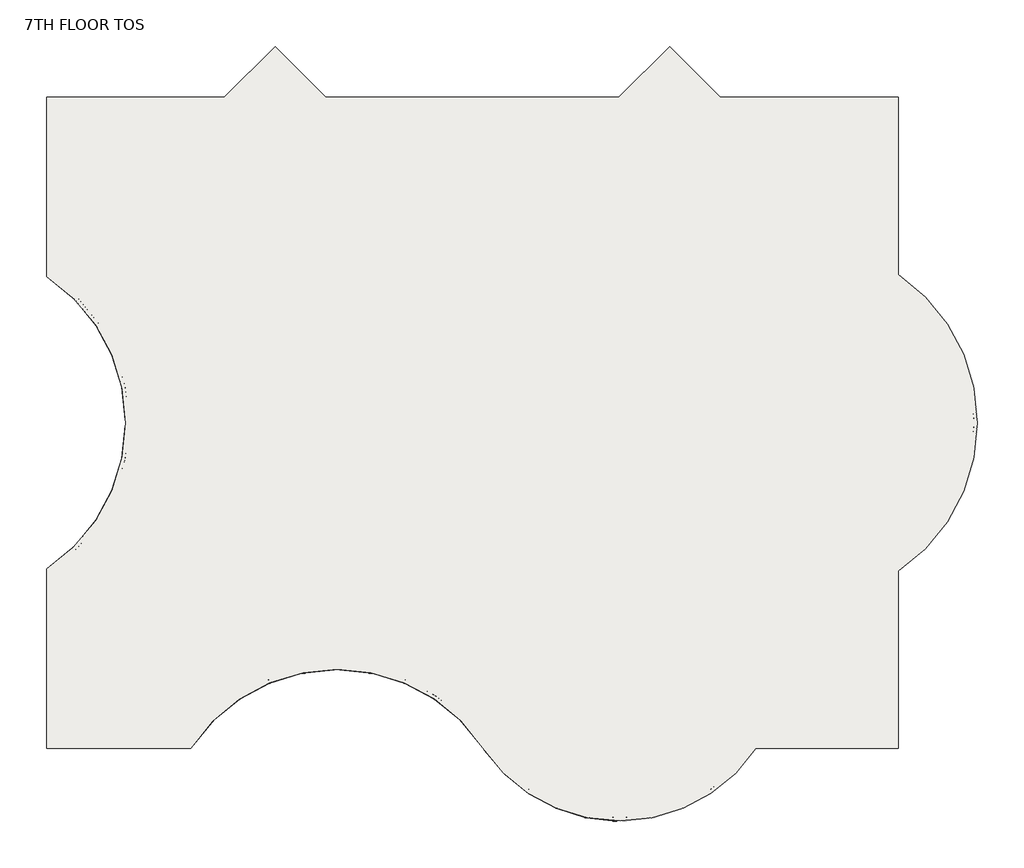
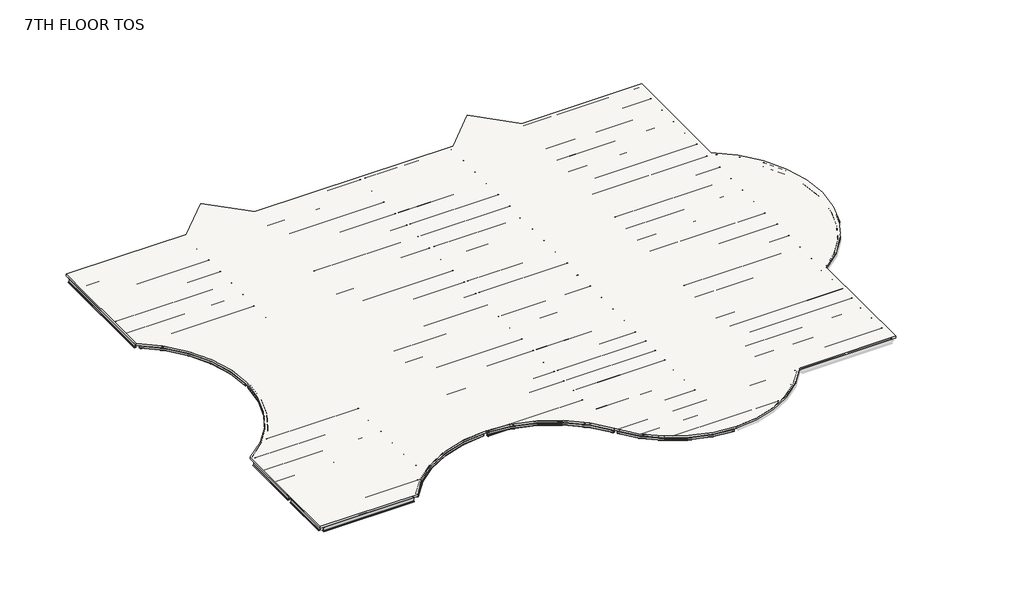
# One storey, part 1 of 2: 86 beams, 1 slab.
"""IFC4 building model written with IfcOpenShell, lengths in millimetres."""

from ifc_helpers import new_model, si_unit, frame, origin, place, context, project, spatial, polyline, circle_curve, transform, mapped, element, save
from ifc_brep_helpers import plane_surface, cylinder_surface, revolved_surface, advanced_brep
from components import m_hss_square_hss203_2x203_2x9_5_914ff4eb, m_hss_square_hss203_2x203_2x9_5_0e3d8e6e, m_hss_square_hss203_2x203_2x9_5_16dc1c03, m_hss_square_hss203_2x203_2x9_5_18346204, m_hss_square_hss203_2x203_2x9_5_d5f1e8c4, ub_universal_beams_ub254x102x28_4e7f3726, ub_universal_beams_ub305x165x40_c4d0385b, ub_universal_beams_ub305x165x40_d3abc31d, ub_universal_beams_ub305x165x40_0c73730f, ub_universal_beams_ub305x165x40_2a963f0c, ub_universal_beams_ub305x165x40_0a5f2f96, ub_universal_beams_ub305x165x40_d1f7c369, ub_universal_beams_ub305x165x40_83d7b7d5, ub_universal_beams_ub305x165x40_729a4ea5, ub_universal_beams_ub305x165x40_71dfa851, ub_universal_beams_ub305x165x40_619b5398, ub_universal_beams_ub305x165x40_c3492db1, ub_universal_beams_ub305x165x40_8f1c350d, ub_universal_beams_ub305x165x40_3afb5f90, ub_universal_beams_ub305x165x40_767d1929, ub_universal_beams_ub305x165x40_5941ca45, ub_universal_beams_ub356x171x51_ef72dcdd, ub_universal_beams_ub356x171x51_7f80702c, ub_universal_beams_ub356x171x51_dfc36663, ub_universal_beams_ub356x171x51_405a853e, ub_universal_beams_ub356x171x51_e47b7055, ub_universal_beams_ub356x171x51_e97f8d2e, ub_universal_beams_ub356x171x51_11d6b780, ub_universal_beams_ub356x171x51_76b2d20b, ub_universal_beams_ub356x171x51_145ecd4b, ub_universal_beams_ub356x171x51_c7dff8d2, ub_universal_beams_ub356x171x51_834c6e34, ub_universal_beams_ub356x171x51_a38b99de, ub_universal_beams_ub356x171x51_d8f4cdde, ub_universal_beams_ub356x171x51_8094f821, ub_universal_beams_ub356x171x51_e661f2e4, ub_universal_beams_ub356x171x51_3ee91673, ub_universal_beams_ub356x171x51_a871b283, ub_universal_beams_ub356x171x51_741bae58

model = new_model("IFC4")

# Units and contexts
model_context = context("Model", 3, world=origin())
ifc_project = project(units=[si_unit("LENGTHUNIT", "METRE", prefix="MILLI")], contexts=[model_context])

# Site, building, storey
site = spatial("IfcSite", under=ifc_project)
building = spatial("IfcBuilding", under=site)
storey = spatial("IfcBuildingStorey", under=building, Name="7TH FLOOR TOS", Elevation=31851.6)

# Beams
placement = place(None, origin())
m_hss_square_hss203_2x203_2x9_5_shape = m_hss_square_hss203_2x203_2x9_5_914ff4eb(model_context)
element("IfcBeam", 1, ObjectType="M_HSS Square : HSS203.2X203.2X9.5", at=placement, inside=storey, context=model_context, shape_type="MappedRepresentation", body=[
    mapped(m_hss_square_hss203_2x203_2x9_5_shape, transform((22710.575, 155.575, 31750.1), x_axis=(-0.552849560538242, 0.8332810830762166, 0.0), y_axis=(-0.8332810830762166, -0.552849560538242, 0.0), z_axis=(0.0, 0.0, 1.0))),
])
m_hss_square_hss203_2x203_2x9_5_2_shape = m_hss_square_hss203_2x203_2x9_5_0e3d8e6e(model_context)
element("IfcBeam", 2, ObjectType="M_HSS Square : HSS203.2X203.2X9.5", at=placement, inside=storey, context=model_context, shape_type="MappedRepresentation", body=[
    mapped(m_hss_square_hss203_2x203_2x9_5_2_shape, transform((155.575, 9299.575, 31750.1), x_axis=(0.8332810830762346, 0.5528495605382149, 0.0), y_axis=(-0.5528495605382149, 0.8332810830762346, 0.0), z_axis=(0.0, 0.0, 1.0))),
])
m_hss_square_hss203_2x203_2x9_5_3_shape = m_hss_square_hss203_2x203_2x9_5_16dc1c03(model_context)
element("IfcBeam", 3, ObjectType="M_HSS Square : HSS203.2X203.2X9.5", at=placement, inside=storey, context=model_context, shape_type="MappedRepresentation", body=[
    mapped(m_hss_square_hss203_2x203_2x9_5_3_shape, transform((155.575, 24539.575, 31750.1), x_axis=(0.8332810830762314, -0.5528495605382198, 0.0), y_axis=(0.5528495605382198, 0.8332810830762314, 0.0), z_axis=(0.0, 0.0, 1.0))),
])
m_hss_square_hss203_2x203_2x9_5_4_shape = m_hss_square_hss203_2x203_2x9_5_18346204(model_context)
element("IfcBeam", 4, ObjectType="M_HSS Square : HSS203.2X203.2X9.5", at=placement, inside=storey, context=model_context, shape_type="MappedRepresentation", body=[
    mapped(m_hss_square_hss203_2x203_2x9_5_4_shape, transform((29734.7266693, -3601.398624, 31750.1), x_axis=(-0.9999968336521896, -0.0025164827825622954, 0.0), y_axis=(0.0025164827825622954, -0.9999968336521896, 0.0), z_axis=(0.0, 0.0, 1.0))),
])
m_hss_square_hss203_2x203_2x9_5_5_shape = m_hss_square_hss203_2x203_2x9_5_d5f1e8c4(model_context)
element("IfcBeam", 5, ObjectType="M_HSS Square : HSS203.2X203.2X9.5", at=placement, inside=storey, context=model_context, shape_type="MappedRepresentation", body=[
    mapped(m_hss_square_hss203_2x203_2x9_5_5_shape, transform((15096.4572854, 4244.5731081, 31750.1), x_axis=(-0.9999997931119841, 0.0006432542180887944, 0.0), y_axis=(-0.0006432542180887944, -0.9999997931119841, 0.0), z_axis=(0.0, 0.0, 1.0))),
])
ub_universal_beams_ub254x102x28_shape = ub_universal_beams_ub254x102x28_4e7f3726(model_context)
element("IfcBeam", 6, ObjectType="UB-Universal Beams : UB254x102x28", at=placement, inside=storey, context=model_context, shape_type="MappedRepresentation", body=[
    mapped(ub_universal_beams_ub254x102x28_shape, transform((9299.575, 3210.915913, 31721.4), x_axis=(0.0, -1.0, 0.0), y_axis=(1.0, 0.0, 0.0), z_axis=(0.0, 0.0, 1.0))),
])
ub_universal_beams_ub305x165x40_shape = ub_universal_beams_ub305x165x40_c4d0385b(model_context)
element("IfcBeam", 7, ObjectType="UB-Universal Beams : UB305x165x40", at=placement, inside=storey, context=model_context, shape_type="MappedRepresentation", body=[
    mapped(ub_universal_beams_ub305x165x40_shape, transform((4727.575, 30635.575, 31699.9), x_axis=(1.0, 0.0, 0.0), y_axis=(0.0, 1.0, 0.0), z_axis=(0.0, 0.0, 1.0))),
])
element("IfcBeam", 8, ObjectType="UB-Universal Beams : UB305x165x40", at=placement, inside=storey, context=model_context, shape_type="MappedRepresentation", body=[
    mapped(ub_universal_beams_ub305x165x40_shape, transform((4727.575, 29111.575, 31699.9), x_axis=(1.0, 0.0, 0.0), y_axis=(0.0, 1.0, 0.0), z_axis=(0.0, 0.0, 1.0))),
])
element("IfcBeam", 9, ObjectType="UB-Universal Beams : UB305x165x40", at=placement, inside=storey, context=model_context, shape_type="MappedRepresentation", body=[
    mapped(ub_universal_beams_ub305x165x40_shape, transform((4727.575, 27587.575, 31699.9), x_axis=(1.0, 0.0, 0.0), y_axis=(0.0, 1.0, 0.0), z_axis=(0.0, 0.0, 1.0))),
])
element("IfcBeam", 10, ObjectType="UB-Universal Beams : UB305x165x40", at=placement, inside=storey, context=model_context, shape_type="MappedRepresentation", body=[
    mapped(ub_universal_beams_ub305x165x40_shape, transform((4727.575, 26063.575, 31699.9), x_axis=(1.0, 0.0, 0.0), y_axis=(0.0, 1.0, 0.0), z_axis=(0.0, 0.0, 1.0))),
])
element("IfcBeam", 11, ObjectType="UB-Universal Beams : UB305x165x40", at=placement, inside=storey, context=model_context, shape_type="MappedRepresentation", body=[
    mapped(ub_universal_beams_ub305x165x40_shape, transform((4727.575, 4727.575, 31699.9), x_axis=(-1.0, 0.0, 0.0), y_axis=(0.0, -1.0, 0.0), z_axis=(0.0, 0.0, 1.0))),
])
element("IfcBeam", 12, ObjectType="UB-Universal Beams : UB305x165x40", at=placement, inside=storey, context=model_context, shape_type="MappedRepresentation", body=[
    mapped(ub_universal_beams_ub305x165x40_shape, transform((4727.575, 6251.575, 31699.9), x_axis=(-1.0, 0.0, 0.0), y_axis=(0.0, -1.0, 0.0), z_axis=(0.0, 0.0, 1.0))),
])
element("IfcBeam", 13, ObjectType="UB-Universal Beams : UB305x165x40", at=placement, inside=storey, context=model_context, shape_type="MappedRepresentation", body=[
    mapped(ub_universal_beams_ub305x165x40_shape, transform((4727.575, 7775.575, 31699.9), x_axis=(-1.0, 0.0, 0.0), y_axis=(0.0, -1.0, 0.0), z_axis=(0.0, 0.0, 1.0))),
])
ub_universal_beams_ub305x165x40_2_shape = ub_universal_beams_ub305x165x40_d3abc31d(model_context)
element("IfcBeam", 14, ObjectType="UB-Universal Beams : UB305x165x40", at=placement, inside=storey, context=model_context, shape_type="MappedRepresentation", body=[
    mapped(ub_universal_beams_ub305x165x40_2_shape, transform((11885.575, 28938.325, 31699.9), x_axis=(1.0, 0.0, 0.0), y_axis=(0.0, 1.0, 0.0), z_axis=(0.0, 0.0, 1.0))),
])
element("IfcBeam", 15, ObjectType="UB-Universal Beams : UB305x165x40", at=placement, inside=storey, context=model_context, shape_type="MappedRepresentation", body=[
    mapped(ub_universal_beams_ub305x165x40_2_shape, transform((11885.575, 27472.075, 31699.9), x_axis=(1.0, 0.0, 0.0), y_axis=(0.0, 1.0, 0.0), z_axis=(0.0, 0.0, 1.0))),
])
element("IfcBeam", 16, ObjectType="UB-Universal Beams : UB305x165x40", at=placement, inside=storey, context=model_context, shape_type="MappedRepresentation", body=[
    mapped(ub_universal_beams_ub305x165x40_2_shape, transform((11885.575, 26005.825, 31699.9), x_axis=(1.0, 0.0, 0.0), y_axis=(0.0, 1.0, 0.0), z_axis=(0.0, 0.0, 1.0))),
])
element("IfcBeam", 17, ObjectType="UB-Universal Beams : UB305x165x40", at=placement, inside=storey, context=model_context, shape_type="MappedRepresentation", body=[
    mapped(ub_universal_beams_ub305x165x40_2_shape, transform((11885.575, 23015.575, 31699.9), x_axis=(1.0, 0.0, 0.0), y_axis=(0.0, 1.0, 0.0), z_axis=(0.0, 0.0, 1.0))),
])
element("IfcBeam", 18, ObjectType="UB-Universal Beams : UB305x165x40", at=placement, inside=storey, context=model_context, shape_type="MappedRepresentation", body=[
    mapped(ub_universal_beams_ub305x165x40_2_shape, transform((11885.575, 21491.575, 31699.9), x_axis=(1.0, 0.0, 0.0), y_axis=(0.0, 1.0, 0.0), z_axis=(0.0, 0.0, 1.0))),
])
element("IfcBeam", 19, ObjectType="UB-Universal Beams : UB305x165x40", at=placement, inside=storey, context=model_context, shape_type="MappedRepresentation", body=[
    mapped(ub_universal_beams_ub305x165x40_2_shape, transform((11885.575, 19967.575, 31699.9), x_axis=(1.0, 0.0, 0.0), y_axis=(0.0, 1.0, 0.0), z_axis=(0.0, 0.0, 1.0))),
])
element("IfcBeam", 20, ObjectType="UB-Universal Beams : UB305x165x40", at=placement, inside=storey, context=model_context, shape_type="MappedRepresentation", body=[
    mapped(ub_universal_beams_ub305x165x40_2_shape, transform((11885.575, 18443.575, 31699.9), x_axis=(1.0, 0.0, 0.0), y_axis=(0.0, 1.0, 0.0), z_axis=(0.0, 0.0, 1.0))),
])
element("IfcBeam", 21, ObjectType="UB-Universal Beams : UB305x165x40", at=placement, inside=storey, context=model_context, shape_type="MappedRepresentation", body=[
    mapped(ub_universal_beams_ub305x165x40_2_shape, transform((11885.575, 15395.575, 31699.9), x_axis=(1.0, 0.0, 0.0), y_axis=(0.0, 1.0, 0.0), z_axis=(0.0, 0.0, 1.0))),
])
element("IfcBeam", 22, ObjectType="UB-Universal Beams : UB305x165x40", at=placement, inside=storey, context=model_context, shape_type="MappedRepresentation", body=[
    mapped(ub_universal_beams_ub305x165x40_2_shape, transform((11885.575, 13871.575, 31699.9), x_axis=(1.0, 0.0, 0.0), y_axis=(0.0, 1.0, 0.0), z_axis=(0.0, 0.0, 1.0))),
])
element("IfcBeam", 23, ObjectType="UB-Universal Beams : UB305x165x40", at=placement, inside=storey, context=model_context, shape_type="MappedRepresentation", body=[
    mapped(ub_universal_beams_ub305x165x40_2_shape, transform((11885.575, 12347.575, 31699.9), x_axis=(1.0, 0.0, 0.0), y_axis=(0.0, 1.0, 0.0), z_axis=(0.0, 0.0, 1.0))),
])
element("IfcBeam", 24, ObjectType="UB-Universal Beams : UB305x165x40", at=placement, inside=storey, context=model_context, shape_type="MappedRepresentation", body=[
    mapped(ub_universal_beams_ub305x165x40_2_shape, transform((11885.575, 10823.575, 31699.9), x_axis=(1.0, 0.0, 0.0), y_axis=(0.0, 1.0, 0.0), z_axis=(0.0, 0.0, 1.0))),
])
element("IfcBeam", 25, ObjectType="UB-Universal Beams : UB305x165x40", at=placement, inside=storey, context=model_context, shape_type="MappedRepresentation", body=[
    mapped(ub_universal_beams_ub305x165x40_2_shape, transform((11885.575, 5026.1840956, 31699.9), x_axis=(-1.0, 0.0, 0.0), y_axis=(0.0, -1.0, 0.0), z_axis=(0.0, 0.0, 1.0))),
])
element("IfcBeam", 26, ObjectType="UB-Universal Beams : UB305x165x40", at=placement, inside=storey, context=model_context, shape_type="MappedRepresentation", body=[
    mapped(ub_universal_beams_ub305x165x40_2_shape, transform((11885.575, 6450.6477304, 31699.9), x_axis=(-1.0, 0.0, 0.0), y_axis=(0.0, -1.0, 0.0), z_axis=(0.0, 0.0, 1.0))),
])
element("IfcBeam", 27, ObjectType="UB-Universal Beams : UB305x165x40", at=placement, inside=storey, context=model_context, shape_type="MappedRepresentation", body=[
    mapped(ub_universal_beams_ub305x165x40_2_shape, transform((11885.575, 7875.1113652, 31699.9), x_axis=(-1.0, 0.0, 0.0), y_axis=(0.0, -1.0, 0.0), z_axis=(0.0, 0.0, 1.0))),
])
ub_universal_beams_ub305x165x40_3_shape = ub_universal_beams_ub305x165x40_0c73730f(model_context)
element("IfcBeam", 28, ObjectType="UB-Universal Beams : UB305x165x40", at=placement, inside=storey, context=model_context, shape_type="MappedRepresentation", body=[
    mapped(ub_universal_beams_ub305x165x40_3_shape, transform((18591.075, 5492.5943214, 31699.9), x_axis=(-1.0, 0.0, 0.0), y_axis=(0.0, -1.0, 0.0), z_axis=(0.0, 0.0, 1.0))),
])
element("IfcBeam", 29, ObjectType="UB-Universal Beams : UB305x165x40", at=placement, inside=storey, context=model_context, shape_type="MappedRepresentation", body=[
    mapped(ub_universal_beams_ub305x165x40_3_shape, transform((18591.075, 6761.5878809, 31699.9), x_axis=(-1.0, 0.0, 0.0), y_axis=(0.0, -1.0, 0.0), z_axis=(0.0, 0.0, 1.0))),
])
element("IfcBeam", 30, ObjectType="UB-Universal Beams : UB305x165x40", at=placement, inside=storey, context=model_context, shape_type="MappedRepresentation", body=[
    mapped(ub_universal_beams_ub305x165x40_3_shape, transform((18591.075, 8030.5814405, 31699.9), x_axis=(-1.0, 0.0, 0.0), y_axis=(0.0, -1.0, 0.0), z_axis=(0.0, 0.0, 1.0))),
])
element("IfcBeam", 31, ObjectType="UB-Universal Beams : UB305x165x40", at=placement, inside=storey, context=model_context, shape_type="MappedRepresentation", body=[
    mapped(ub_universal_beams_ub305x165x40_3_shape, transform((18591.075, 15395.575, 31699.9), x_axis=(1.0, 0.0, 0.0), y_axis=(0.0, 1.0, 0.0), z_axis=(0.0, 0.0, 1.0))),
])
element("IfcBeam", 32, ObjectType="UB-Universal Beams : UB305x165x40", at=placement, inside=storey, context=model_context, shape_type="MappedRepresentation", body=[
    mapped(ub_universal_beams_ub305x165x40_3_shape, transform((18591.075, 13871.575, 31699.9), x_axis=(1.0, 0.0, 0.0), y_axis=(0.0, 1.0, 0.0), z_axis=(0.0, 0.0, 1.0))),
])
element("IfcBeam", 33, ObjectType="UB-Universal Beams : UB305x165x40", at=placement, inside=storey, context=model_context, shape_type="MappedRepresentation", body=[
    mapped(ub_universal_beams_ub305x165x40_3_shape, transform((18591.075, 12347.575, 31699.9), x_axis=(1.0, 0.0, 0.0), y_axis=(0.0, 1.0, 0.0), z_axis=(0.0, 0.0, 1.0))),
])
element("IfcBeam", 34, ObjectType="UB-Universal Beams : UB305x165x40", at=placement, inside=storey, context=model_context, shape_type="MappedRepresentation", body=[
    mapped(ub_universal_beams_ub305x165x40_3_shape, transform((18591.075, 10823.575, 31699.9), x_axis=(1.0, 0.0, 0.0), y_axis=(0.0, 1.0, 0.0), z_axis=(0.0, 0.0, 1.0))),
])
ub_universal_beams_ub305x165x40_4_shape = ub_universal_beams_ub305x165x40_2a963f0c(model_context)
element("IfcBeam", 35, ObjectType="UB-Universal Beams : UB305x165x40", at=placement, inside=storey, context=model_context, shape_type="MappedRepresentation", body=[
    mapped(ub_universal_beams_ub305x165x40_4_shape, transform((26211.075, 15395.575, 31699.9), x_axis=(1.0, 0.0, 0.0), y_axis=(0.0, 1.0, 0.0), z_axis=(0.0, 0.0, 1.0))),
])
element("IfcBeam", 36, ObjectType="UB-Universal Beams : UB305x165x40", at=placement, inside=storey, context=model_context, shape_type="MappedRepresentation", body=[
    mapped(ub_universal_beams_ub305x165x40_4_shape, transform((26211.075, 13871.575, 31699.9), x_axis=(1.0, 0.0, 0.0), y_axis=(0.0, 1.0, 0.0), z_axis=(0.0, 0.0, 1.0))),
])
element("IfcBeam", 37, ObjectType="UB-Universal Beams : UB305x165x40", at=placement, inside=storey, context=model_context, shape_type="MappedRepresentation", body=[
    mapped(ub_universal_beams_ub305x165x40_4_shape, transform((26211.075, 12347.575, 31699.9), x_axis=(1.0, 0.0, 0.0), y_axis=(0.0, 1.0, 0.0), z_axis=(0.0, 0.0, 1.0))),
])
element("IfcBeam", 38, ObjectType="UB-Universal Beams : UB305x165x40", at=placement, inside=storey, context=model_context, shape_type="MappedRepresentation", body=[
    mapped(ub_universal_beams_ub305x165x40_4_shape, transform((26211.075, 10823.575, 31699.9), x_axis=(1.0, 0.0, 0.0), y_axis=(0.0, 1.0, 0.0), z_axis=(0.0, 0.0, 1.0))),
])
element("IfcBeam", 39, ObjectType="UB-Universal Beams : UB305x165x40", at=placement, inside=storey, context=model_context, shape_type="MappedRepresentation", body=[
    mapped(ub_universal_beams_ub305x165x40_4_shape, transform((26211.075, 5508.325, 31699.9), x_axis=(-1.0, 0.0, 0.0), y_axis=(0.0, -1.0, 0.0), z_axis=(0.0, 0.0, 1.0))),
])
element("IfcBeam", 40, ObjectType="UB-Universal Beams : UB305x165x40", at=placement, inside=storey, context=model_context, shape_type="MappedRepresentation", body=[
    mapped(ub_universal_beams_ub305x165x40_4_shape, transform((26211.075, 6772.075, 31699.9), x_axis=(-1.0, 0.0, 0.0), y_axis=(0.0, -1.0, 0.0), z_axis=(0.0, 0.0, 1.0))),
])
element("IfcBeam", 41, ObjectType="UB-Universal Beams : UB305x165x40", at=placement, inside=storey, context=model_context, shape_type="MappedRepresentation", body=[
    mapped(ub_universal_beams_ub305x165x40_4_shape, transform((26211.075, 8035.825, 31699.9), x_axis=(-1.0, 0.0, 0.0), y_axis=(0.0, -1.0, 0.0), z_axis=(0.0, 0.0, 1.0))),
])
element("IfcBeam", 42, ObjectType="UB-Universal Beams : UB305x165x40", at=placement, inside=storey, context=model_context, shape_type="MappedRepresentation", body=[
    mapped(ub_universal_beams_ub305x165x40_4_shape, transform((26211.075, 1518.575, 31699.9), x_axis=(-1.0, 0.0, 0.0), y_axis=(0.0, -1.0, 0.0), z_axis=(0.0, 0.0, 1.0))),
])
element("IfcBeam", 43, ObjectType="UB-Universal Beams : UB305x165x40", at=placement, inside=storey, context=model_context, shape_type="MappedRepresentation", body=[
    mapped(ub_universal_beams_ub305x165x40_4_shape, transform((26211.075, 2881.575, 31699.9), x_axis=(-1.0, 0.0, 0.0), y_axis=(0.0, -1.0, 0.0), z_axis=(0.0, 0.0, 1.0))),
])
ub_universal_beams_ub305x165x40_5_shape = ub_universal_beams_ub305x165x40_0a5f2f96(model_context)
element("IfcBeam", 44, ObjectType="UB-Universal Beams : UB305x165x40", at=placement, inside=storey, context=model_context, shape_type="MappedRepresentation", body=[
    mapped(ub_universal_beams_ub305x165x40_5_shape, transform((29713.575, -2349.0918253, 31699.9), x_axis=(-1.0, 0.0, 0.0), y_axis=(0.0, -1.0, 0.0), z_axis=(0.0, 0.0, 1.0))),
])
ub_universal_beams_ub305x165x40_6_shape = ub_universal_beams_ub305x165x40_d1f7c369(model_context)
element("IfcBeam", 45, ObjectType="UB-Universal Beams : UB305x165x40", at=placement, inside=storey, context=model_context, shape_type="MappedRepresentation", body=[
    mapped(ub_universal_beams_ub305x165x40_6_shape, transform((29713.575, -1096.7584126, 31699.9), x_axis=(-1.0, 0.0, 0.0), y_axis=(0.0, -1.0, 0.0), z_axis=(0.0, 0.0, 1.0))),
])
ub_universal_beams_ub305x165x40_7_shape = ub_universal_beams_ub305x165x40_83d7b7d5(model_context)
element("IfcBeam", 46, ObjectType="UB-Universal Beams : UB305x165x40", at=placement, inside=storey, context=model_context, shape_type="MappedRepresentation", body=[
    mapped(ub_universal_beams_ub305x165x40_7_shape, transform((22157.3041106, 1518.575, 31699.9), x_axis=(-1.0, 0.0, 0.0), y_axis=(0.0, -1.0, 0.0), z_axis=(0.0, 0.0, 1.0))),
])
ub_universal_beams_ub305x165x40_8_shape = ub_universal_beams_ub305x165x40_729a4ea5(model_context)
element("IfcBeam", 47, ObjectType="UB-Universal Beams : UB305x165x40", at=placement, inside=storey, context=model_context, shape_type="MappedRepresentation", body=[
    mapped(ub_universal_beams_ub305x165x40_8_shape, transform((21302.1545844, 2881.575, 31699.9), x_axis=(-1.0, 0.0, 0.0), y_axis=(0.0, -1.0, 0.0), z_axis=(0.0, 0.0, 1.0))),
])
ub_universal_beams_ub305x165x40_9_shape = ub_universal_beams_ub305x165x40_71dfa851(model_context)
element("IfcBeam", 48, ObjectType="UB-Universal Beams : UB305x165x40", at=placement, inside=storey, context=model_context, shape_type="MappedRepresentation", body=[
    mapped(ub_universal_beams_ub305x165x40_9_shape, transform((10511.0323166, 3601.7204608, 31699.9), x_axis=(-1.0, 0.0, 0.0), y_axis=(0.0, -1.0, 0.0), z_axis=(0.0, 0.0, 1.0))),
])
ub_universal_beams_ub305x165x40_10_shape = ub_universal_beams_ub305x165x40_619b5398(model_context)
element("IfcBeam", 49, ObjectType="UB-Universal Beams : UB305x165x40", at=placement, inside=storey, context=model_context, shape_type="MappedRepresentation", body=[
    mapped(ub_universal_beams_ub305x165x40_10_shape, transform((4447.6838282, 1679.575, 31699.9), x_axis=(-1.0, 0.0, 0.0), y_axis=(0.0, -1.0, 0.0), z_axis=(0.0, 0.0, 1.0))),
])
ub_universal_beams_ub305x165x40_11_shape = ub_universal_beams_ub305x165x40_c3492db1(model_context)
element("IfcBeam", 50, ObjectType="UB-Universal Beams : UB305x165x40", at=placement, inside=storey, context=model_context, shape_type="MappedRepresentation", body=[
    mapped(ub_universal_beams_ub305x165x40_11_shape, transform((4727.575, 3203.575, 31699.9), x_axis=(-1.0, 0.0, 0.0), y_axis=(0.0, -1.0, 0.0), z_axis=(0.0, 0.0, 1.0))),
])
ub_universal_beams_ub305x165x40_12_shape = ub_universal_beams_ub305x165x40_8f1c350d(model_context)
element("IfcBeam", 51, ObjectType="UB-Universal Beams : UB305x165x40", at=placement, inside=storey, context=model_context, shape_type="MappedRepresentation", body=[
    mapped(ub_universal_beams_ub305x165x40_12_shape, transform((6708.1318611, 15395.575, 31699.9), x_axis=(1.0, 0.0, 0.0), y_axis=(0.0, 1.0, 0.0), z_axis=(0.0, 0.0, 1.0))),
])
element("IfcBeam", 52, ObjectType="UB-Universal Beams : UB305x165x40", at=placement, inside=storey, context=model_context, shape_type="MappedRepresentation", body=[
    mapped(ub_universal_beams_ub305x165x40_12_shape, transform((6708.1318611, 18443.575, 31699.9), x_axis=(1.0, 0.0, 0.0), y_axis=(0.0, 1.0, 0.0), z_axis=(0.0, 0.0, 1.0))),
])
ub_universal_beams_ub305x165x40_13_shape = ub_universal_beams_ub305x165x40_3afb5f90(model_context)
element("IfcBeam", 53, ObjectType="UB-Universal Beams : UB305x165x40", at=placement, inside=storey, context=model_context, shape_type="MappedRepresentation", body=[
    mapped(ub_universal_beams_ub305x165x40_13_shape, transform((6510.6153272, 13871.575, 31699.9), x_axis=(1.0, 0.0, 0.0), y_axis=(0.0, 1.0, 0.0), z_axis=(0.0, 0.0, 1.0))),
])
element("IfcBeam", 54, ObjectType="UB-Universal Beams : UB305x165x40", at=placement, inside=storey, context=model_context, shape_type="MappedRepresentation", body=[
    mapped(ub_universal_beams_ub305x165x40_13_shape, transform((6510.6153272, 19967.575, 31699.9), x_axis=(1.0, 0.0, 0.0), y_axis=(0.0, 1.0, 0.0), z_axis=(0.0, 0.0, 1.0))),
])
ub_universal_beams_ub305x165x40_14_shape = ub_universal_beams_ub305x165x40_767d1929(model_context)
element("IfcBeam", 55, ObjectType="UB-Universal Beams : UB305x165x40", at=placement, inside=storey, context=model_context, shape_type="MappedRepresentation", body=[
    mapped(ub_universal_beams_ub305x165x40_14_shape, transform((6159.5874928, 12347.575, 31699.9), x_axis=(1.0, 0.0, 0.0), y_axis=(0.0, 1.0, 0.0), z_axis=(0.0, 0.0, 1.0))),
])
element("IfcBeam", 56, ObjectType="UB-Universal Beams : UB305x165x40", at=placement, inside=storey, context=model_context, shape_type="MappedRepresentation", body=[
    mapped(ub_universal_beams_ub305x165x40_14_shape, transform((6159.5874928, 21491.575, 31699.9), x_axis=(1.0, 0.0, 0.0), y_axis=(0.0, 1.0, 0.0), z_axis=(0.0, 0.0, 1.0))),
])
ub_universal_beams_ub305x165x40_15_shape = ub_universal_beams_ub305x165x40_5941ca45(model_context)
element("IfcBeam", 57, ObjectType="UB-Universal Beams : UB305x165x40", at=placement, inside=storey, context=model_context, shape_type="MappedRepresentation", body=[
    mapped(ub_universal_beams_ub305x165x40_15_shape, transform((5607.9405309, 10823.575, 31699.9), x_axis=(1.0, 0.0, 0.0), y_axis=(0.0, 1.0, 0.0), z_axis=(0.0, 0.0, 1.0))),
])
element("IfcBeam", 58, ObjectType="UB-Universal Beams : UB305x165x40", at=placement, inside=storey, context=model_context, shape_type="MappedRepresentation", body=[
    mapped(ub_universal_beams_ub305x165x40_15_shape, transform((5607.9405309, 23015.575, 31699.9), x_axis=(1.0, 0.0, 0.0), y_axis=(0.0, 1.0, 0.0), z_axis=(0.0, 0.0, 1.0))),
])
ub_universal_beams_ub356x171x51_shape = ub_universal_beams_ub356x171x51_ef72dcdd(model_context)
element("IfcBeam", 59, ObjectType="UB-Universal Beams : UB356x171x51", at=placement, inside=storey, context=model_context, shape_type="MappedRepresentation", body=[
    mapped(ub_universal_beams_ub356x171x51_shape, transform((9299.575, 6772.075, 31674.1), x_axis=(0.0, -1.0, 0.0), y_axis=(1.0, 0.0, 0.0), z_axis=(0.0, 0.0, 1.0))),
])
element("IfcBeam", 60, ObjectType="UB-Universal Beams : UB356x171x51", at=placement, inside=storey, context=model_context, shape_type="MappedRepresentation", body=[
    mapped(ub_universal_beams_ub356x171x51_shape, transform((29711.575, 6772.075, 31674.1), x_axis=(0.0, 1.0, 0.0), y_axis=(-1.0, 0.0, 0.0), z_axis=(0.0, 0.0, 1.0))),
])
element("IfcBeam", 61, ObjectType="UB-Universal Beams : UB356x171x51", at=placement, inside=storey, context=model_context, shape_type="MappedRepresentation", body=[
    mapped(ub_universal_beams_ub356x171x51_shape, transform((22710.575, 6772.075, 31674.1), x_axis=(0.0, -1.0, 0.0), y_axis=(1.0, 0.0, 0.0), z_axis=(0.0, 0.0, 1.0))),
])
ub_universal_beams_ub356x171x51_2_shape = ub_universal_beams_ub356x171x51_7f80702c(model_context)
element("IfcBeam", 62, ObjectType="UB-Universal Beams : UB356x171x51", at=placement, inside=storey, context=model_context, shape_type="MappedRepresentation", body=[
    mapped(ub_universal_beams_ub356x171x51_2_shape, transform((3813.075, 155.575, 31674.1), x_axis=(-1.0, 0.0, 0.0), y_axis=(0.0, -1.0, 0.0), z_axis=(0.0, 0.0, 1.0))),
])
ub_universal_beams_ub356x171x51_3_shape = ub_universal_beams_ub356x171x51_dfc36663(model_context)
element("IfcBeam", 63, ObjectType="UB-Universal Beams : UB356x171x51", at=placement, inside=storey, context=model_context, shape_type="MappedRepresentation", body=[
    mapped(ub_universal_beams_ub356x171x51_3_shape, transform((155.575, 2200.075, 31674.1), x_axis=(0.0, 1.0, 0.0), y_axis=(-1.0, 0.0, 0.0), z_axis=(0.0, 0.0, 1.0))),
])
ub_universal_beams_ub356x171x51_4_shape = ub_universal_beams_ub356x171x51_405a853e(model_context)
element("IfcBeam", 64, ObjectType="UB-Universal Beams : UB356x171x51", at=placement, inside=storey, context=model_context, shape_type="MappedRepresentation", body=[
    mapped(ub_universal_beams_ub356x171x51_4_shape, transform((155.575, 6772.075, 31674.1), x_axis=(0.0, 1.0, 0.0), y_axis=(-1.0, 0.0, 0.0), z_axis=(0.0, 0.0, 1.0))),
])
ub_universal_beams_ub356x171x51_5_shape = ub_universal_beams_ub356x171x51_e47b7055(model_context)
element("IfcBeam", 65, ObjectType="UB-Universal Beams : UB356x171x51", at=placement, inside=storey, context=model_context, shape_type="MappedRepresentation", body=[
    mapped(ub_universal_beams_ub356x171x51_5_shape, transform((155.575, 29111.575, 31674.1), x_axis=(0.0, 1.0, 0.0), y_axis=(-1.0, 0.0, 0.0), z_axis=(0.0, 0.0, 1.0))),
])
ub_universal_beams_ub356x171x51_6_shape = ub_universal_beams_ub356x171x51_e97f8d2e(model_context)
element("IfcBeam", 66, ObjectType="UB-Universal Beams : UB356x171x51", at=placement, inside=storey, context=model_context, shape_type="MappedRepresentation", body=[
    mapped(ub_universal_beams_ub356x171x51_6_shape, transform((4727.575, 24539.575, 31674.1), x_axis=(1.0, 0.0, 0.0), y_axis=(0.0, 1.0, 0.0), z_axis=(0.0, 0.0, 1.0))),
])
ub_universal_beams_ub356x171x51_7_shape = ub_universal_beams_ub356x171x51_11d6b780(model_context)
element("IfcBeam", 67, ObjectType="UB-Universal Beams : UB356x171x51", at=placement, inside=storey, context=model_context, shape_type="MappedRepresentation", body=[
    mapped(ub_universal_beams_ub356x171x51_7_shape, transform((11885.575, 24539.575, 31674.1), x_axis=(1.0, 0.0, 0.0), y_axis=(0.0, 1.0, 0.0), z_axis=(0.0, 0.0, 1.0))),
])
element("IfcBeam", 68, ObjectType="UB-Universal Beams : UB356x171x51", at=placement, inside=storey, context=model_context, shape_type="MappedRepresentation", body=[
    mapped(ub_universal_beams_ub356x171x51_7_shape, transform((11885.575, 9299.575, 31674.1), x_axis=(-1.0, 0.0, 0.0), y_axis=(0.0, -1.0, 0.0), z_axis=(0.0, 0.0, 1.0))),
])
element("IfcBeam", 69, ObjectType="UB-Universal Beams : UB356x171x51", at=placement, inside=storey, context=model_context, shape_type="MappedRepresentation", body=[
    mapped(ub_universal_beams_ub356x171x51_7_shape, transform((11885.575, 16919.575, 31674.1), x_axis=(1.0, 0.0, 0.0), y_axis=(0.0, 1.0, 0.0), z_axis=(0.0, 0.0, 1.0))),
])
ub_universal_beams_ub356x171x51_8_shape = ub_universal_beams_ub356x171x51_76b2d20b(model_context)
element("IfcBeam", 70, ObjectType="UB-Universal Beams : UB356x171x51", at=placement, inside=storey, context=model_context, shape_type="MappedRepresentation", body=[
    mapped(ub_universal_beams_ub356x171x51_8_shape, transform((18591.075, 9299.575, 31674.1), x_axis=(-1.0, 0.0, 0.0), y_axis=(0.0, -1.0, 0.0), z_axis=(0.0, 0.0, 1.0))),
])
ub_universal_beams_ub356x171x51_9_shape = ub_universal_beams_ub356x171x51_145ecd4b(model_context)
element("IfcBeam", 71, ObjectType="UB-Universal Beams : UB356x171x51", at=placement, inside=storey, context=model_context, shape_type="MappedRepresentation", body=[
    mapped(ub_universal_beams_ub356x171x51_9_shape, transform((26211.075, 9299.575, 31674.1), x_axis=(-1.0, 0.0, 0.0), y_axis=(0.0, -1.0, 0.0), z_axis=(0.0, 0.0, 1.0))),
])
element("IfcBeam", 72, ObjectType="UB-Universal Beams : UB356x171x51", at=placement, inside=storey, context=model_context, shape_type="MappedRepresentation", body=[
    mapped(ub_universal_beams_ub356x171x51_9_shape, transform((26211.075, 4244.575, 31674.1), x_axis=(-1.0, 0.0, 0.0), y_axis=(0.0, -1.0, 0.0), z_axis=(0.0, 0.0, 1.0))),
])
ub_universal_beams_ub356x171x51_10_shape = ub_universal_beams_ub356x171x51_c7dff8d2(model_context)
element("IfcBeam", 73, ObjectType="UB-Universal Beams : UB356x171x51", at=placement, inside=storey, context=model_context, shape_type="MappedRepresentation", body=[
    mapped(ub_universal_beams_ub356x171x51_10_shape, transform((4727.575, 9299.575, 31674.1), x_axis=(-1.0, 0.0, 0.0), y_axis=(0.0, -1.0, 0.0), z_axis=(0.0, 0.0, 1.0))),
])
ub_universal_beams_ub356x171x51_11_shape = ub_universal_beams_ub356x171x51_834c6e34(model_context)
element("IfcBeam", 74, ObjectType="UB-Universal Beams : UB356x171x51", at=placement, inside=storey, context=model_context, shape_type="MappedRepresentation", body=[
    mapped(ub_universal_beams_ub356x171x51_11_shape, transform((14471.575, 6761.5878809, 31674.1), x_axis=(0.0, -1.0, 0.0), y_axis=(1.0, 0.0, 0.0), z_axis=(0.0, 0.0, 1.0))),
])
ub_universal_beams_ub356x171x51_12_shape = ub_universal_beams_ub356x171x51_a38b99de(model_context)
element("IfcBeam", 75, ObjectType="UB-Universal Beams : UB356x171x51", at=placement, inside=storey, context=model_context, shape_type="MappedRepresentation", body=[
    mapped(ub_universal_beams_ub356x171x51_12_shape, transform((9299.575, 13109.575, 31674.1), x_axis=(0.0, 1.0, 0.0), y_axis=(-1.0, 0.0, 0.0), z_axis=(0.0, 0.0, 1.0))),
])
element("IfcBeam", 76, ObjectType="UB-Universal Beams : UB356x171x51", at=placement, inside=storey, context=model_context, shape_type="MappedRepresentation", body=[
    mapped(ub_universal_beams_ub356x171x51_12_shape, transform((9299.575, 20729.575, 31674.1), x_axis=(0.0, 1.0, 0.0), y_axis=(-1.0, 0.0, 0.0), z_axis=(0.0, 0.0, 1.0))),
])
element("IfcBeam", 77, ObjectType="UB-Universal Beams : UB356x171x51", at=placement, inside=storey, context=model_context, shape_type="MappedRepresentation", body=[
    mapped(ub_universal_beams_ub356x171x51_12_shape, transform((14471.575, 20729.575, 31674.1), x_axis=(0.0, -1.0, 0.0), y_axis=(1.0, 0.0, 0.0), z_axis=(0.0, 0.0, 1.0))),
])
element("IfcBeam", 78, ObjectType="UB-Universal Beams : UB356x171x51", at=placement, inside=storey, context=model_context, shape_type="MappedRepresentation", body=[
    mapped(ub_universal_beams_ub356x171x51_12_shape, transform((14471.575, 13109.575, 31674.1), x_axis=(0.0, -1.0, 0.0), y_axis=(1.0, 0.0, 0.0), z_axis=(0.0, 0.0, 1.0))),
])
element("IfcBeam", 79, ObjectType="UB-Universal Beams : UB356x171x51", at=placement, inside=storey, context=model_context, shape_type="MappedRepresentation", body=[
    mapped(ub_universal_beams_ub356x171x51_12_shape, transform((22710.575, 13109.575, 31674.1), x_axis=(0.0, -1.0, 0.0), y_axis=(1.0, 0.0, 0.0), z_axis=(0.0, 0.0, 1.0))),
])
element("IfcBeam", 80, ObjectType="UB-Universal Beams : UB356x171x51", at=placement, inside=storey, context=model_context, shape_type="MappedRepresentation", body=[
    mapped(ub_universal_beams_ub356x171x51_12_shape, transform((29711.575, 13109.575, 31674.1), x_axis=(0.0, 1.0, 0.0), y_axis=(-1.0, 0.0, 0.0), z_axis=(0.0, 0.0, 1.0))),
])
ub_universal_beams_ub356x171x51_13_shape = ub_universal_beams_ub356x171x51_d8f4cdde(model_context)
element("IfcBeam", 81, ObjectType="UB-Universal Beams : UB356x171x51", at=placement, inside=storey, context=model_context, shape_type="MappedRepresentation", body=[
    mapped(ub_universal_beams_ub356x171x51_13_shape, transform((9299.575, 29111.575, 31674.1), x_axis=(0.0, 1.0, 0.0), y_axis=(-1.0, 0.0, 0.0), z_axis=(0.0, 0.0, 1.0))),
])
ub_universal_beams_ub356x171x51_14_shape = ub_universal_beams_ub356x171x51_8094f821(model_context)
element("IfcBeam", 82, ObjectType="UB-Universal Beams : UB356x171x51", at=placement, inside=storey, context=model_context, shape_type="MappedRepresentation", body=[
    mapped(ub_universal_beams_ub356x171x51_14_shape, transform((6772.075, 16919.575, 31674.1), x_axis=(1.0, 0.0, 0.0), y_axis=(0.0, 1.0, 0.0), z_axis=(0.0, 0.0, 1.0))),
])
ub_universal_beams_ub356x171x51_15_shape = ub_universal_beams_ub356x171x51_e661f2e4(model_context)
element("IfcBeam", 83, ObjectType="UB-Universal Beams : UB356x171x51", at=placement, inside=storey, context=model_context, shape_type="MappedRepresentation", body=[
    mapped(ub_universal_beams_ub356x171x51_15_shape, transform((29713.575, 155.575, 31674.1), x_axis=(-1.0, 0.0, 0.0), y_axis=(0.0, -1.0, 0.0), z_axis=(0.0, 0.0, 1.0))),
])
ub_universal_beams_ub356x171x51_16_shape = ub_universal_beams_ub356x171x51_3ee91673(model_context)
element("IfcBeam", 84, ObjectType="UB-Universal Beams : UB356x171x51", at=placement, inside=storey, context=model_context, shape_type="MappedRepresentation", body=[
    mapped(ub_universal_beams_ub356x171x51_16_shape, transform((18900.575, 4244.575, 31674.1), x_axis=(-1.0, 0.0, 0.0), y_axis=(0.0, -1.0, 0.0), z_axis=(0.0, 0.0, 1.0))),
])
ub_universal_beams_ub356x171x51_17_shape = ub_universal_beams_ub356x171x51_a871b283(model_context)
element("IfcBeam", 85, ObjectType="UB-Universal Beams : UB356x171x51", at=placement, inside=storey, context=model_context, shape_type="MappedRepresentation", body=[
    mapped(ub_universal_beams_ub356x171x51_17_shape, transform((22710.575, 2200.075, 31674.1), x_axis=(0.0, -1.0, 0.0), y_axis=(1.0, 0.0, 0.0), z_axis=(0.0, 0.0, 1.0))),
])
ub_universal_beams_ub356x171x51_18_shape = ub_universal_beams_ub356x171x51_741bae58(model_context)
element("IfcBeam", 86, ObjectType="UB-Universal Beams : UB356x171x51", at=placement, inside=storey, context=model_context, shape_type="MappedRepresentation", body=[
    mapped(ub_universal_beams_ub356x171x51_18_shape, transform((29711.575, 2200.075, 31674.1), x_axis=(0.0, -1.0, 0.0), y_axis=(1.0, 0.0, 0.0), z_axis=(0.0, 0.0, 1.0))),
])

# Slab
element("IfcSlab", 87, ObjectType="152mm Concrete With 50mm Metal Deck", at=placement, inside=storey, context=model_context, shape_type="AdvancedBrep", body=[
    advanced_brep(
    [(69.575, 33769.575, 31851.6), (4244.575, 33769.575, 31851.6), (9263.9526336, 33769.575, 31851.6), (11885.575, 36391.1973664, 31851.6), (14507.1973664, 33769.575, 31851.6), (22710.575, 33769.575, 31851.6), (29675.9526336, 33769.575, 31851.6), (32297.575, 36391.1973664, 31851.6), (34919.1973664, 33769.575, 31851.6), (44113.575, 33769.575, 31851.6), (44113.575, 24585.5849139, 31851.6), (44113.575, 9253.5650861, 31851.6), (44113.575, 4244.575, 31851.6), (44113.575, 69.575, 31851.6), (36762.5616677, 69.575, 31851.6), (29734.9430869, -3687.3983517, 31851.6), (22638.9224102, 108.0154965, 31851.6), (15096.4019655, 4158.5731259, 31851.6), (7516.8644167, 69.575, 31851.6), (69.575, 69.575, 31851.6), (69.575, 4244.575, 31851.6), (69.575, 9345.8644167, 31851.6), (69.575, 24493.2855833, 31851.6), (69.575, 33769.575, 32003.6), (69.575, 24493.2855833, 32003.6), (69.575, 9345.8644167, 32003.6), (69.575, 4244.575, 32003.6), (69.575, 69.575, 32003.6), (7516.8644167, 69.575, 32003.6), (15096.4019655, 4158.5731259, 32003.6), (22638.9128269, 108.0299378, 32003.6), (29734.9430869, -3687.3983517, 32003.6), (36762.5616677, 69.575, 32003.6), (44113.575, 69.575, 32003.6), (44113.575, 4244.575, 32003.6), (44113.575, 9253.5650861, 32003.6), (44113.575, 24585.5849139, 32003.6), (44113.575, 33769.575, 32003.6), (34919.1973664, 33769.575, 32003.6), (32297.575, 36391.1973664, 32003.6), (29675.9526336, 33769.575, 32003.6), (22710.575, 33769.575, 32003.6), (14507.1973664, 33769.575, 32003.6), (11885.575, 36391.1973664, 32003.6), (9263.9526336, 33769.575, 32003.6), (4244.575, 33769.575, 32003.6)],
    [
        (0, 1),
        (1, 2),
        (2, 3),
        (3, 4),
        (4, 5),
        (5, 6),
        (6, 7),
        (7, 8),
        (8, 9),
        (9, 10),
        (10, 11, circle_curve(frame((38972.0016324, 16919.575, 31851.6), z_axis=(0.0, 0.0, -1.0), x_axis=(1.0, 0.0, 0.0)), 9230.5733676)),
        (11, 12),
        (12, 13),
        (13, 14),
        (14, 15, circle_curve(frame((29713.575, 4803.825732, 31851.6), z_axis=(0.0, 0.0, -1.0), x_axis=(1.0, 0.0, 0.0)), 8491.2509699)),
        (15, 16, circle_curve(frame((29713.575, 4803.825732, 31851.6), z_axis=(0.0, 0.0, -1.0), x_axis=(1.0, 0.0, 0.0)), 8491.2509699)),
        (16, 17, circle_curve(frame((15090.575, -4899.9983676, 31851.6), z_axis=(0.0, 0.0, 1.0), x_axis=(1.0, 0.0, 0.0)), 9058.5733676)),
        (17, 18, circle_curve(frame((15090.575, -4899.9983676, 31851.6), z_axis=(0.0, 0.0, 1.0), x_axis=(1.0, 0.0, 0.0)), 9058.5733676)),
        (18, 19),
        (19, 20),
        (20, 21),
        (21, 22, circle_curve(frame((-4899.9983676, 16919.575, 31851.6), z_axis=(0.0, 0.0, 1.0), x_axis=(1.0, 0.0, 0.0)), 9058.5733676)),
        (22, 0),
        (23, 24),
        (24, 25, circle_curve(frame((-4899.9983676, 16919.575, 32003.6), z_axis=(0.0, 0.0, -1.0), x_axis=(1.0, 0.0, 0.0)), 9058.5733676)),
        (25, 26),
        (26, 27),
        (27, 28),
        (28, 29, circle_curve(frame((15090.575, -4899.9983676, 32003.6), z_axis=(0.0, 0.0, -1.0), x_axis=(1.0, 0.0, 0.0)), 9058.5733676)),
        (29, 30, circle_curve(frame((15090.575, -4899.9983676, 32003.6), z_axis=(0.0, 0.0, -1.0), x_axis=(1.0, 0.0, 0.0)), 9058.5733676)),
        (30, 31, circle_curve(frame((29713.575, 4803.825732, 32003.6), z_axis=(0.0, 0.0, 1.0), x_axis=(1.0, 0.0, 0.0)), 8491.2509699)),
        (31, 32, circle_curve(frame((29713.575, 4803.825732, 32003.6), z_axis=(0.0, 0.0, 1.0), x_axis=(1.0, 0.0, 0.0)), 8491.2509699)),
        (32, 33),
        (33, 34),
        (34, 35),
        (35, 36, circle_curve(frame((38972.0016324, 16919.575, 32003.6), z_axis=(0.0, 0.0, 1.0), x_axis=(1.0, 0.0, 0.0)), 9230.5733676)),
        (36, 37),
        (37, 38),
        (38, 39),
        (39, 40),
        (40, 41),
        (41, 42),
        (42, 43),
        (43, 44),
        (44, 45),
        (45, 23),
        (0, 23),
        (45, 1),
        (44, 2),
        (43, 3),
        (42, 4),
        (41, 5),
        (40, 6),
        (39, 7),
        (38, 8),
        (37, 9),
        (36, 10),
        (35, 11),
        (34, 12),
        (33, 13),
        (32, 14),
        (31, 15),
        (30, 16),
        (29, 17),
        (28, 18),
        (27, 19),
        (26, 20),
        (25, 21),
        (24, 22),
    ],
    [
        plane_surface(frame((155.575, 33769.575, 31851.6), z_axis=(0.0, 0.0, -1.0), x_axis=(1.0, 0.0, 0.0))),
        plane_surface(frame((155.575, 33769.575, 32003.6), z_axis=(0.0, 0.0, 1.0), x_axis=(-1.0, 0.0, 0.0))),
        plane_surface(frame((69.575, 33769.575, 31851.6), z_axis=(0.0, 1.0, 0.0), x_axis=(0.0, 0.0, 1.0))),
        plane_surface(frame((4244.575, 33769.575, 31851.6), z_axis=(0.0, 1.0, 0.0), x_axis=(0.0, 0.0, 1.0))),
        plane_surface(frame((9263.9526336, 33769.575, 31851.6), z_axis=(-0.7071067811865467, 0.7071067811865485, 0.0), x_axis=(0.0, 0.0, 1.0))),
        plane_surface(frame((11885.575, 36391.1973664, 31851.6), z_axis=(0.7071067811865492, 0.7071067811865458, 0.0), x_axis=(0.0, 0.0, 1.0))),
        plane_surface(frame((14507.1973664, 33769.575, 31851.6), z_axis=(0.0, 1.0, 0.0), x_axis=(0.0, 0.0, 1.0))),
        plane_surface(frame((22710.575, 33769.575, 31851.6), z_axis=(0.0, 1.0, 0.0), x_axis=(0.0, 0.0, 1.0))),
        plane_surface(frame((29675.9526336, 33769.575, 31851.6), z_axis=(-0.7071067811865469, 0.7071067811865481, 0.0), x_axis=(0.0, 0.0, 1.0))),
        plane_surface(frame((32297.575, 36391.1973664, 31851.6), z_axis=(0.7071067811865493, 0.7071067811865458, 0.0), x_axis=(0.0, 0.0, 1.0))),
        plane_surface(frame((34919.1973664, 33769.575, 31851.6), z_axis=(0.0, 1.0, 0.0), x_axis=(0.0, 0.0, 1.0))),
        plane_surface(frame((44113.575, 33769.575, 31851.6), z_axis=(1.0, 0.0, 0.0), x_axis=(0.0, 0.0, 1.0))),
        cylinder_surface(frame((38972.0016324, 16919.575, 32003.6), z_axis=(0.0, 0.0, -1.0), x_axis=(1.0, 0.0, 0.0)), 9230.5733676),
        plane_surface(frame((44113.575, 9253.5650861, 31851.6), z_axis=(1.0, 0.0, 0.0), x_axis=(0.0, 0.0, 1.0))),
        plane_surface(frame((44113.575, 4244.575, 31851.6), z_axis=(1.0, 0.0, 0.0), x_axis=(0.0, 0.0, 1.0))),
        plane_surface(frame((44113.575, 69.575, 31851.6), z_axis=(0.0, -1.0, 0.0), x_axis=(0.0, 0.0, 1.0))),
        cylinder_surface(frame((29713.575, 4803.825732, 32003.6), z_axis=(0.0, 0.0, -1.0), x_axis=(1.0, 0.0, 0.0)), 8491.2509699),
        revolved_surface(polyline([(24149.1483676, -4899.9983676, 32003.6), (24149.1483676, -4899.9983676, 31851.6)]), (15090.575, -4899.9983676, 32003.6), (0.0, 0.0, 1.0)),
        plane_surface(frame((7516.8644167, 69.575, 31851.6), z_axis=(0.0, -1.0, 0.0), x_axis=(0.0, 0.0, 1.0))),
        plane_surface(frame((69.575, 69.575, 31851.6), z_axis=(-1.0, 0.0, 0.0), x_axis=(0.0, 0.0, 1.0))),
        plane_surface(frame((69.575, 4244.575, 31851.6), z_axis=(-1.0, 0.0, 0.0), x_axis=(0.0, 0.0, 1.0))),
        revolved_surface(polyline([(4158.575, 16919.575, 32003.6), (4158.575, 16919.575, 31851.6)]), (-4899.9983676, 16919.575, 32003.6), (0.0, 0.0, 1.0)),
        plane_surface(frame((69.575, 24493.2855833, 31851.6), z_axis=(-1.0, 0.0, 0.0), x_axis=(0.0, 0.0, 1.0))),
    ],
    [
        (0, [[1, 2, 3, 4, 5, 6, 7, 8, 9, 10, 11, 12, 13, 14, 15, 16, 17, 18, 19, 20, 21, 22, 23]]),
        (1, [[24, 25, 26, 27, 28, 29, 30, 31, 32, 33, 34, 35, 36, 37, 38, 39, 40, 41, 42, 43, 44, 45, 46]]),
        (2, [[-1, 47, -46, 48]]),
        (3, [[-2, -48, -45, 49]]),
        (4, [[-3, -49, -44, 50]]),
        (5, [[-4, -50, -43, 51]]),
        (6, [[-5, -51, -42, 52]]),
        (7, [[-6, -52, -41, 53]]),
        (8, [[-7, -53, -40, 54]]),
        (9, [[-8, -54, -39, 55]]),
        (10, [[-9, -55, -38, 56]]),
        (11, [[-10, -56, -37, 57]]),
        (12, [[-11, -57, -36, 58]]),
        (13, [[-12, -58, -35, 59]]),
        (14, [[-13, -59, -34, 60]]),
        (15, [[-14, -60, -33, 61]]),
        (16, [[-15, -61, -32, 62]]),
        (16, [[-16, -62, -31, 63]]),
        (17, [[-17, -63, -30, 64]]),
        (17, [[-18, -64, -29, 65]]),
        (18, [[-19, -65, -28, 66]]),
        (19, [[-20, -66, -27, 67]]),
        (20, [[-21, -67, -26, 68]]),
        (21, [[-22, -68, -25, 69]]),
        (22, [[-23, -69, -24, -47]]),
    ],
),
])

save(model, "model.ifc")
